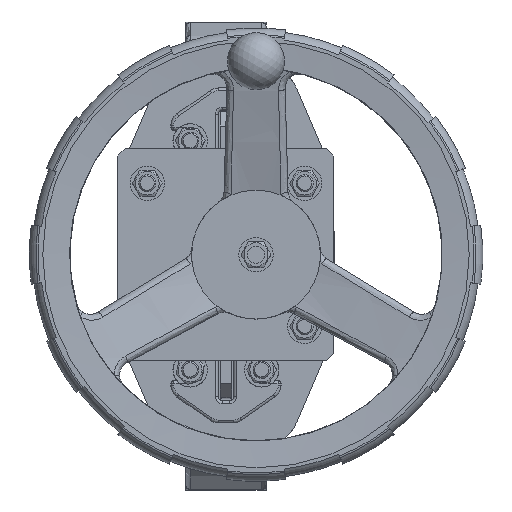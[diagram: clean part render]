
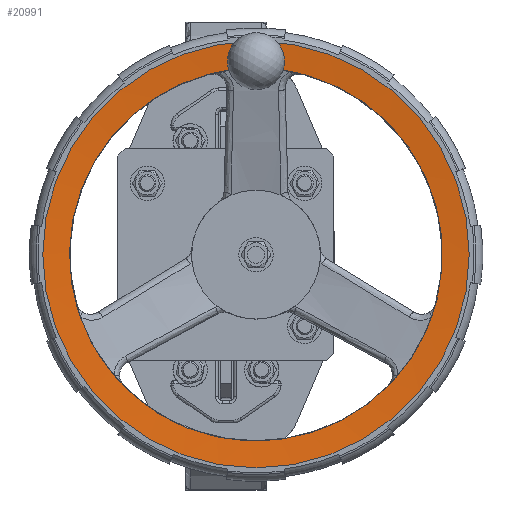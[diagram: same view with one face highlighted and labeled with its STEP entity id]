
A CAD part, top view. The second image highlights one B-rep face of the part: STEP entity #20991.
In plain terms, the highlighted conical face has half-angle 85 degrees and reference radius 139.655 mm.
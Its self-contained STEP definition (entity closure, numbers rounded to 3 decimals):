
#342=B_SPLINE_CURVE_WITH_KNOTS('',3,(#34381,#34382,#34383,#34384,#34385,
#34386,#34387),.UNSPECIFIED.,.F.,.F.,(4,3,4),(-0.377,0.,0.165),
 .UNSPECIFIED.);
#345=B_SPLINE_CURVE_WITH_KNOTS('',3,(#34398,#34399,#34400,#34401,#34402,
#34403),.UNSPECIFIED.,.F.,.F.,(4,2,4),(4.701,4.866,
5.243),.UNSPECIFIED.);
#1110=LINE('',#34532,#2480);
#2480=VECTOR('',#25419,139.654);
#3850=(
BOUNDED_CURVE()
B_SPLINE_CURVE(2,(#34463,#34464,#34465),.UNSPECIFIED.,.F.,.F.)
B_SPLINE_CURVE_WITH_KNOTS((3,3),(30.11,30.242),
 .UNSPECIFIED.)
CURVE()
GEOMETRIC_REPRESENTATION_ITEM()
RATIONAL_B_SPLINE_CURVE((1.105,1.066,1.026))
REPRESENTATION_ITEM('')
);
#3851=(
BOUNDED_CURVE()
B_SPLINE_CURVE(2,(#34525,#34526,#34527),.UNSPECIFIED.,.F.,.F.)
B_SPLINE_CURVE_WITH_KNOTS((3,3),(0.043,0.176),
 .UNSPECIFIED.)
CURVE()
GEOMETRIC_REPRESENTATION_ITEM()
RATIONAL_B_SPLINE_CURVE((1.026,1.066,1.105))
REPRESENTATION_ITEM('')
);
#3950=CONICAL_SURFACE('',#22377,139.654,1.484);
#4254=FACE_OUTER_BOUND('',#5547,.T.);
#5547=EDGE_LOOP('',(#14363,#14364,#14365,#14366,#14367,#14368,#14369,#14370,
#14371,#14372,#14373));
#6927=CIRCLE('',#22366,147.454);
#6931=CIRCLE('',#22378,130.309);
#6932=CIRCLE('',#22379,149.);
#6933=CIRCLE('',#22380,149.);
#6934=CIRCLE('',#22381,130.309);
#8510=VERTEX_POINT('',#34330);
#8511=VERTEX_POINT('',#34331);
#8520=VERTEX_POINT('',#34379);
#8521=VERTEX_POINT('',#34380);
#8522=VERTEX_POINT('',#34392);
#8523=VERTEX_POINT('',#34397);
#8530=VERTEX_POINT('',#34529);
#8531=VERTEX_POINT('',#34531);
#8532=VERTEX_POINT('',#34533);
#10728=EDGE_CURVE('',#8510,#8511,#6927,.T.);
#10739=EDGE_CURVE('',#8520,#8521,#342,.T.);
#10742=EDGE_CURVE('',#8523,#8522,#345,.T.);
#10749=EDGE_CURVE('',#8521,#8510,#3850,.T.);
#10755=EDGE_CURVE('',#8511,#8523,#3851,.T.);
#10756=EDGE_CURVE('',#8522,#8530,#6931,.T.);
#10757=EDGE_CURVE('',#8530,#8531,#1110,.T.);
#10758=EDGE_CURVE('',#8532,#8531,#6932,.T.);
#10759=EDGE_CURVE('',#8531,#8532,#6933,.T.);
#10760=EDGE_CURVE('',#8530,#8520,#6934,.T.);
#14363=ORIENTED_EDGE('',*,*,#10739,.T.);
#14364=ORIENTED_EDGE('',*,*,#10749,.T.);
#14365=ORIENTED_EDGE('',*,*,#10728,.T.);
#14366=ORIENTED_EDGE('',*,*,#10755,.T.);
#14367=ORIENTED_EDGE('',*,*,#10742,.T.);
#14368=ORIENTED_EDGE('',*,*,#10756,.T.);
#14369=ORIENTED_EDGE('',*,*,#10757,.T.);
#14370=ORIENTED_EDGE('',*,*,#10758,.F.);
#14371=ORIENTED_EDGE('',*,*,#10759,.F.);
#14372=ORIENTED_EDGE('',*,*,#10757,.F.);
#14373=ORIENTED_EDGE('',*,*,#10760,.T.);
#20991=ADVANCED_FACE('',(#4254),#3950,.F.);
#22366=AXIS2_PLACEMENT_3D('',#34332,#25385,#25386);
#22377=AXIS2_PLACEMENT_3D('',#34528,#25415,#25416);
#22378=AXIS2_PLACEMENT_3D('',#34530,#25417,#25418);
#22379=AXIS2_PLACEMENT_3D('',#34534,#25420,#25421);
#22380=AXIS2_PLACEMENT_3D('',#34535,#25422,#25423);
#22381=AXIS2_PLACEMENT_3D('',#34536,#25424,#25425);
#25385=DIRECTION('center_axis',(0.,0.,
-1.));
#25386=DIRECTION('ref_axis',(0.866,-0.5,0.));
#25415=DIRECTION('center_axis',(0.,0.,
1.));
#25416=DIRECTION('ref_axis',(0.866,-0.5,0.));
#25417=DIRECTION('center_axis',(0.,0.,
-1.));
#25418=DIRECTION('ref_axis',(0.866,-0.5,0.));
#25419=DIRECTION('',(-0.863,0.498,0.087));
#25420=DIRECTION('center_axis',(0.,0.,
-1.));
#25421=DIRECTION('ref_axis',(0.866,-0.5,0.));
#25422=DIRECTION('center_axis',(0.,0.,
-1.));
#25423=DIRECTION('ref_axis',(0.866,-0.5,0.));
#25424=DIRECTION('center_axis',(0.,0.,
-1.));
#25425=DIRECTION('ref_axis',(0.866,-0.5,0.));
#34330=CARTESIAN_POINT('',(6.,146.689,559.5));
#34331=CARTESIAN_POINT('',(36.,146.689,559.5));
#34332=CARTESIAN_POINT('Origin',(21.,0.,
559.5));
#34379=CARTESIAN_POINT('',(7.022,129.557,558.));
#34380=CARTESIAN_POINT('',(6.,135.,558.483));
#34381=CARTESIAN_POINT('Ctrl Pts',(7.022,129.557,558.));
#34382=CARTESIAN_POINT('Ctrl Pts',(6.539,130.797,558.112));
#34383=CARTESIAN_POINT('Ctrl Pts',(6.232,132.089,558.228));
#34384=CARTESIAN_POINT('Ctrl Pts',(6.093,133.333,558.337));
#34385=CARTESIAN_POINT('Ctrl Pts',(6.032,133.878,558.385));
#34386=CARTESIAN_POINT('Ctrl Pts',(6.,134.436,558.434));
#34387=CARTESIAN_POINT('Ctrl Pts',(6.,135.,558.483));
#34392=CARTESIAN_POINT('',(34.978,129.557,558.));
#34397=CARTESIAN_POINT('',(36.,135.,558.483));
#34398=CARTESIAN_POINT('Ctrl Pts',(36.,135.,558.483));
#34399=CARTESIAN_POINT('Ctrl Pts',(36.,134.436,558.434));
#34400=CARTESIAN_POINT('Ctrl Pts',(35.968,133.878,558.385));
#34401=CARTESIAN_POINT('Ctrl Pts',(35.768,132.089,558.228));
#34402=CARTESIAN_POINT('Ctrl Pts',(35.461,130.797,558.112));
#34403=CARTESIAN_POINT('Ctrl Pts',(34.978,129.557,558.));
#34463=CARTESIAN_POINT('Ctrl Pts',(6.,135.,558.483));
#34464=CARTESIAN_POINT('Ctrl Pts',(6.,140.605,558.97));
#34465=CARTESIAN_POINT('Ctrl Pts',(6.,146.689,559.5));
#34525=CARTESIAN_POINT('Ctrl Pts',(36.,146.689,559.5));
#34526=CARTESIAN_POINT('Ctrl Pts',(36.,140.605,558.97));
#34527=CARTESIAN_POINT('Ctrl Pts',(36.,135.,558.483));
#34528=CARTESIAN_POINT('Origin',(21.,0.,
558.818));
#34529=CARTESIAN_POINT('',(-91.851,65.154,558.));
#34530=CARTESIAN_POINT('Origin',(21.,0.,
558.));
#34531=CARTESIAN_POINT('',(-108.038,74.5,559.635));
#34532=CARTESIAN_POINT('',(-99.944,69.827,558.818));
#34533=CARTESIAN_POINT('',(150.038,-74.5,559.635));
#34534=CARTESIAN_POINT('Origin',(21.,0.,
559.635));
#34535=CARTESIAN_POINT('Origin',(21.,0.,
559.635));
#34536=CARTESIAN_POINT('Origin',(21.,0.,
558.));
